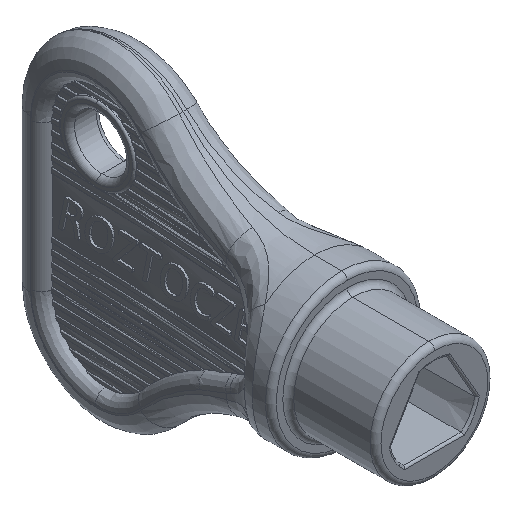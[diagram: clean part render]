
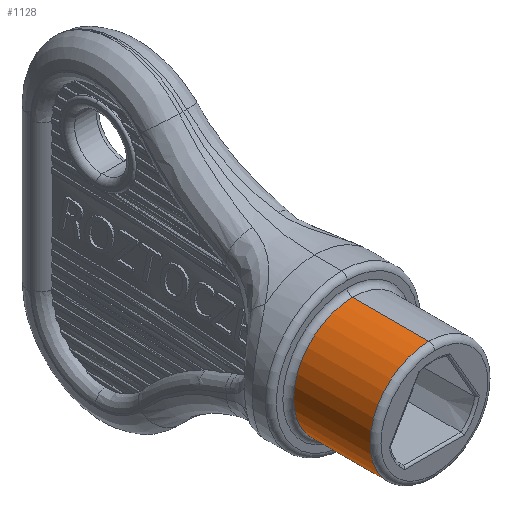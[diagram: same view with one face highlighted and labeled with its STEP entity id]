
A CAD part, isometric view. The second image highlights one B-rep face of the part: STEP entity #1128.
In plain terms, the highlighted cylindrical face has radius 5.4 mm (diameter 10.8 mm), a partial arc.
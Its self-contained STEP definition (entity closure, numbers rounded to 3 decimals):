
#196 = VERTEX_POINT ( 'NONE', #15808 ) ;
#560 = ORIENTED_EDGE ( 'NONE', *, *, #16948, .T. ) ;
#1024 = CIRCLE ( 'NONE', #10244, 5.4 ) ;
#1128 = ADVANCED_FACE ( 'NONE', ( #14796 ), #16318, .T. ) ;
#1499 = DIRECTION ( 'NONE',  ( 0., -1., 0. ) ) ;
#2319 = CARTESIAN_POINT ( 'NONE',  ( 0., 0.5, 5.4 ) ) ;
#3066 = CARTESIAN_POINT ( 'NONE',  ( 0., -6.5, 5.4 ) ) ;
#3491 = VERTEX_POINT ( 'NONE', #3564 ) ;
#3564 = CARTESIAN_POINT ( 'NONE',  ( 0., -6.5, -5.4 ) ) ;
#4351 = VERTEX_POINT ( 'NONE', #2319 ) ;
#5318 = CARTESIAN_POINT ( 'NONE',  ( 0., -6.5, 0. ) ) ;
#5965 = VECTOR ( 'NONE', #16072, 1000. ) ;
#6421 = DIRECTION ( 'NONE',  ( 0., -1., 0. ) ) ;
#6875 = CIRCLE ( 'NONE', #13891, 5.4 ) ;
#7257 = CARTESIAN_POINT ( 'NONE',  ( 0., 1., 5.4 ) ) ;
#7462 = VERTEX_POINT ( 'NONE', #3066 ) ;
#7729 = AXIS2_PLACEMENT_3D ( 'NONE', #18381, #6421, #25084 ) ;
#8099 = LINE ( 'NONE', #24299, #5965 ) ;
#10244 = AXIS2_PLACEMENT_3D ( 'NONE', #5318, #22041, #19998 ) ;
#10636 = EDGE_CURVE ( 'NONE', #4351, #196, #6875, .T. ) ;
#13507 = ORIENTED_EDGE ( 'NONE', *, *, #10636, .T. ) ;
#13891 = AXIS2_PLACEMENT_3D ( 'NONE', #26356, #22099, #17460 ) ;
#14109 = LINE ( 'NONE', #7257, #24290 ) ;
#14473 = EDGE_CURVE ( 'NONE', #4351, #7462, #14109, .T. ) ;
#14796 = FACE_OUTER_BOUND ( 'NONE', #22403, .T. ) ;
#15808 = CARTESIAN_POINT ( 'NONE',  ( 0., 0.5, -5.4 ) ) ;
#16072 = DIRECTION ( 'NONE',  ( 0., -1., 0. ) ) ;
#16318 = CYLINDRICAL_SURFACE ( 'NONE', #7729, 5.4 ) ;
#16948 = EDGE_CURVE ( 'NONE', #3491, #7462, #1024, .T. ) ;
#17460 = DIRECTION ( 'NONE',  ( 0., 0., -1. ) ) ;
#18381 = CARTESIAN_POINT ( 'NONE',  ( 0., 1., 0. ) ) ;
#19998 = DIRECTION ( 'NONE',  ( 0., 0., -1. ) ) ;
#20693 = ORIENTED_EDGE ( 'NONE', *, *, #24567, .T. ) ;
#22041 = DIRECTION ( 'NONE',  ( 0., 1., 0. ) ) ;
#22099 = DIRECTION ( 'NONE',  ( 0., -1., 0. ) ) ;
#22403 = EDGE_LOOP ( 'NONE', ( #24664, #13507, #20693, #560 ) ) ;
#24290 = VECTOR ( 'NONE', #1499, 1000. ) ;
#24299 = CARTESIAN_POINT ( 'NONE',  ( 0., 1., -5.4 ) ) ;
#24567 = EDGE_CURVE ( 'NONE', #196, #3491, #8099, .T. ) ;
#24664 = ORIENTED_EDGE ( 'NONE', *, *, #14473, .F. ) ;
#25084 = DIRECTION ( 'NONE',  ( 0., 0., -1. ) ) ;
#26356 = CARTESIAN_POINT ( 'NONE',  ( 0., 0.5, 0. ) ) ;
